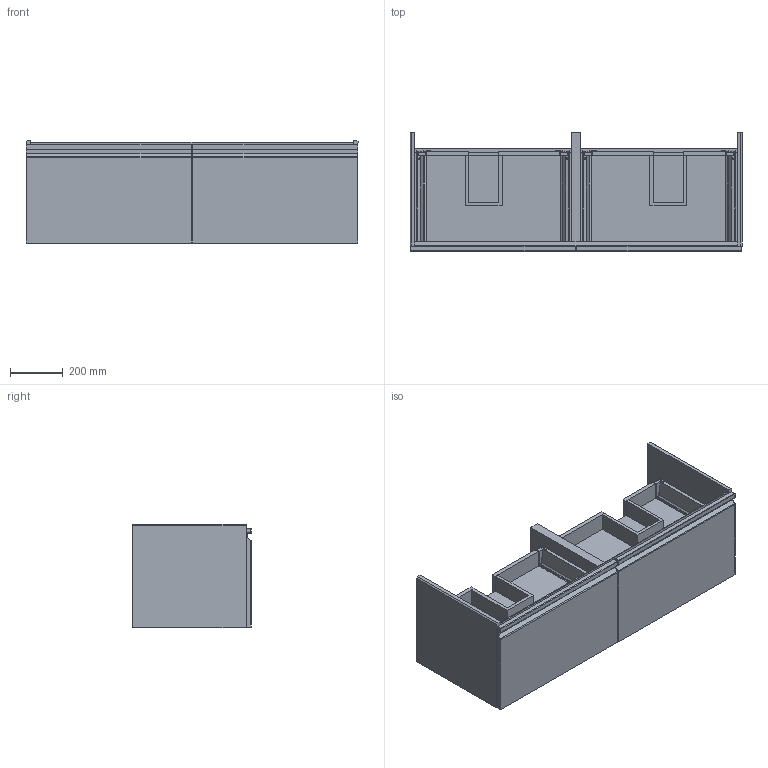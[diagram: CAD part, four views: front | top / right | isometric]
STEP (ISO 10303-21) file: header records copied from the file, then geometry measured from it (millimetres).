
FILE_DESCRIPTION(/* description */ (''),/* implementation_level */ '2;1');
FILE_NAME(/* name */ '3DF3E3~1',/* time_stamp */ '2018-05-14T09:23:18+02:00',/* author */ (''),/* organization */ (''),/* preprocessor_version */ 'ST-DEVELOPER v15',/* originating_system */ '',/* authorisation */ '');
FILE_SCHEMA (('AUTOMOTIVE_DESIGN'));
Length unit declared in the file: millimetre
Products named in the file (51): Document; Parte198; Parte196; Parte194; Parte192; Parte190; Parte188; Parte186; Parte184; Parte178; Parte176; Parte174; Parte172; Parte162; Parte156; Parte154; Parte152; Parte150; Parte144; Parte142; Parte140; Parte138; Parte136; Parte134; Parte132; Parte130; Parte128; Parte126; Parte124; Parte118; Parte116; Parte114; Parte112; Parte106; Parte104; Parte102; Parte100; Parte98; Parte96; Parte94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
Assembly tree (50 placements, depth 2):
  Document
    Parte198
    Parte196
    Parte194
    Parte192
    Parte190
    Parte188
    Parte186
    Parte184
    Parte178
    Parte176
    Parte174
    Parte172
    Parte162
    Parte156
    Parte154
    Parte152
    Parte150
    Parte144
    Parte142
    Parte140
    Parte138
    Parte136
    Parte134
    Parte132
    Parte130
    Parte128
    Parte126
    Parte124
    Parte118
    Parte116
    Parte114
    Parte112
    Parte106
    Parte104
    Parte102
    Parte100
    Parte98
    Parte96
    Parte94
    Parte92
    Parte90
    Parte88
    Parte86
    Parte84
    Parte82
    Parte80
    Parte78
    Parte76
    Parte74
    Parte72
Bounding box: 1258 x 450 x 392 mm (x, y, z)
Volume: 50668336.9 mm3; surface area: 6910314.9 mm2
Topology: 50 solids, 50 shells, 1692 faces, 4664 edges, 3144 vertices
Faces by surface type: plane 1201, bspline 491
Entity records: 57855 total; most frequent: CARTESIAN_POINT 26080, ORIENTED_EDGE 9312, EDGE_CURVE 4656, B_SPLINE_CURVE_WITH_KNOTS 3526, VERTEX_POINT 3144, EDGE_LOOP 1908, ADVANCED_FACE 1692, FACE_OUTER_BOUND 1692
